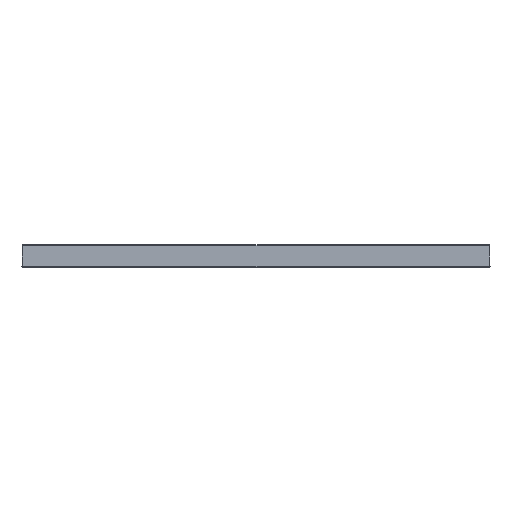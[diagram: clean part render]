
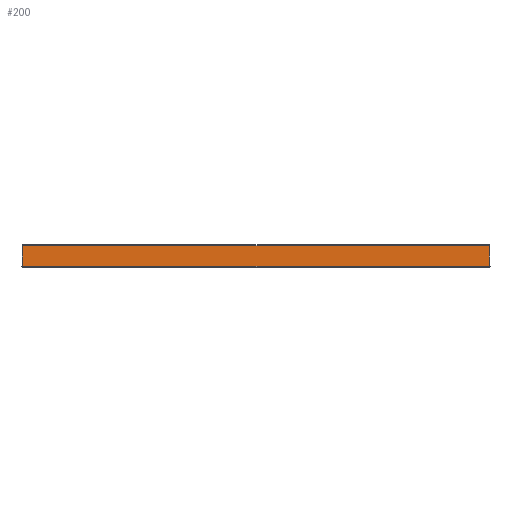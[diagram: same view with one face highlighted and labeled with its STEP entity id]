
A CAD part, front view. The second image highlights one B-rep face of the part: STEP entity #200.
In plain terms, the highlighted planar face has unit normal (0, -1, 0.009).
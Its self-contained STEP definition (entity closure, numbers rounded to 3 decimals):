
#200=ADVANCED_FACE('',(#271),#258,.T.);
#258=PLANE('',#880);
#271=FACE_OUTER_BOUND('',#323,.T.);
#323=EDGE_LOOP('',(#389,#390,#391,#392));
#389=ORIENTED_EDGE('',*,*,#708,.T.);
#390=ORIENTED_EDGE('',*,*,#709,.T.);
#391=ORIENTED_EDGE('',*,*,#710,.T.);
#392=ORIENTED_EDGE('',*,*,#711,.T.);
#635=VERTEX_POINT('',#1115);
#636=VERTEX_POINT('',#1116);
#637=VERTEX_POINT('',#1118);
#638=VERTEX_POINT('',#1120);
#708=EDGE_CURVE('',#635,#636,#831,.T.);
#709=EDGE_CURVE('',#636,#637,#832,.T.);
#710=EDGE_CURVE('',#637,#638,#833,.T.);
#711=EDGE_CURVE('',#638,#635,#834,.T.);
#831=LINE('',#1114,#855);
#832=LINE('',#1117,#856);
#833=LINE('',#1119,#857);
#834=LINE('',#1121,#858);
#855=VECTOR('',#951,1.);
#856=VECTOR('',#952,1.);
#857=VECTOR('',#953,1.);
#858=VECTOR('',#954,1.);
#880=AXIS2_PLACEMENT_3D('',#1122,#955,#956);
#951=DIRECTION('',(-0.009,0.009,1.));
#952=DIRECTION('',(-1.,0.,0.));
#953=DIRECTION('',(-0.009,-0.009,-1.));
#954=DIRECTION('',(1.,0.,0.));
#955=DIRECTION('',(0.,-1.,0.009));
#956=DIRECTION('',(0.,-0.009,-1.));
#1114=CARTESIAN_POINT('',(698.947,-599.947,3.099));
#1115=CARTESIAN_POINT('',(698.991,-599.991,-1.991));
#1116=CARTESIAN_POINT('',(698.721,-599.721,29.009));
#1117=CARTESIAN_POINT('',(0.,-599.721,29.009));
#1118=CARTESIAN_POINT('',(1.279,-599.721,29.009));
#1119=CARTESIAN_POINT('',(1.,-600.,-3.009));
#1120=CARTESIAN_POINT('',(1.009,-599.991,-1.991));
#1121=CARTESIAN_POINT('',(699.,-599.991,-1.991));
#1122=CARTESIAN_POINT('',(0.,-600.,-3.));
